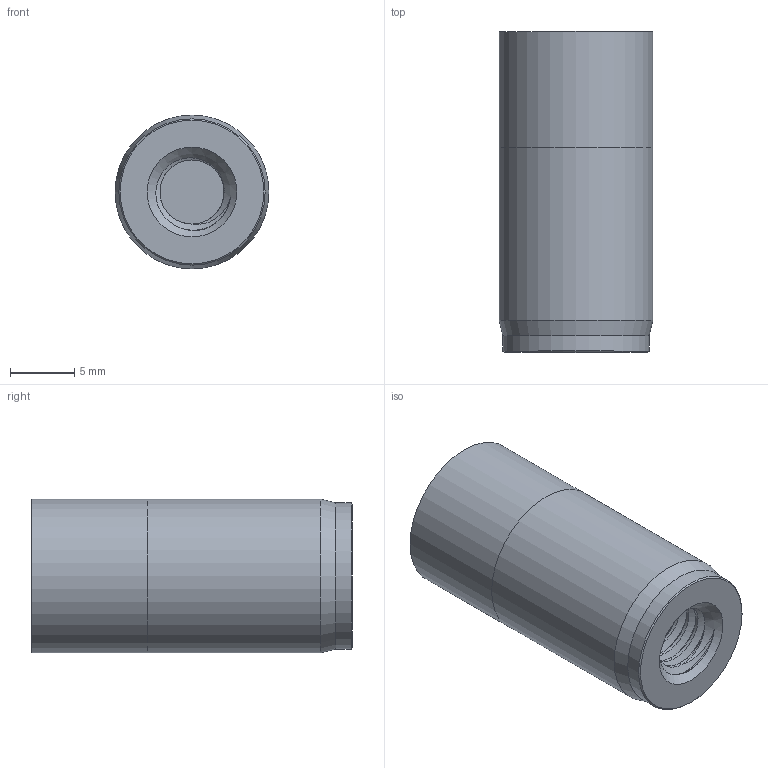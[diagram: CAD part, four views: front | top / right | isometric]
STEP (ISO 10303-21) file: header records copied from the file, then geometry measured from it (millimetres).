
FILE_DESCRIPTION (( 'STEP AP214' ), '1' );
FILE_NAME ('DAP-12.STEP', '2018-10-09T17:56:14', ( '' ), ( '' ), 'SwSTEP 2.0', 'SolidWorks 2017', '' );
FILE_SCHEMA (( 'AUTOMOTIVE_DESIGN' ));
Length unit declared in the file: millimetre
Products named in the file (1): DAP-12
Bounding box: 12 x 25.01 x 12 mm (x, y, z)
Volume: 2449.7 mm3; surface area: 1695.8 mm2
Topology: 2 solids, 2 shells, 91 faces, 235 edges, 156 vertices
Faces by surface type: plane 44, cylinder 41, cone 3, bspline 3
Full cylindrical faces by diameter (mm): 5 x7, 6.4 x1, 11.4 x1, 12 x2
Entity records: 4114 total; most frequent: CARTESIAN_POINT 1881, DIRECTION 410, ORIENTED_EDGE 406, EDGE_CURVE 203, AXIS2_PLACEMENT_3D 142, VERTEX_POINT 139, LINE 126, VECTOR 126
